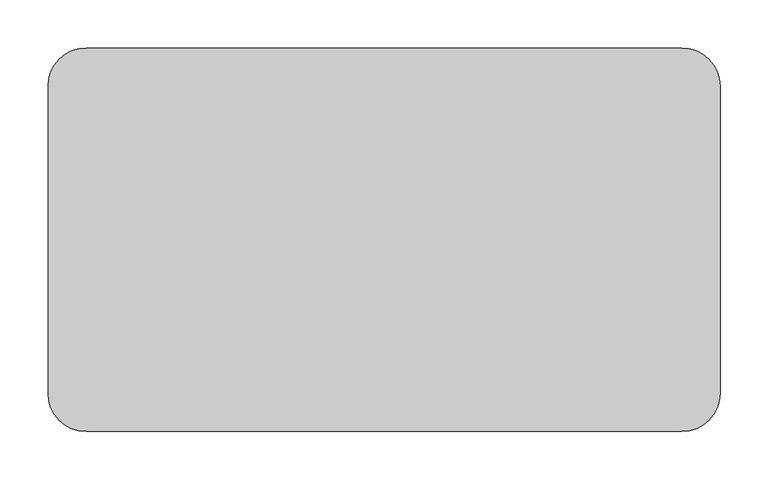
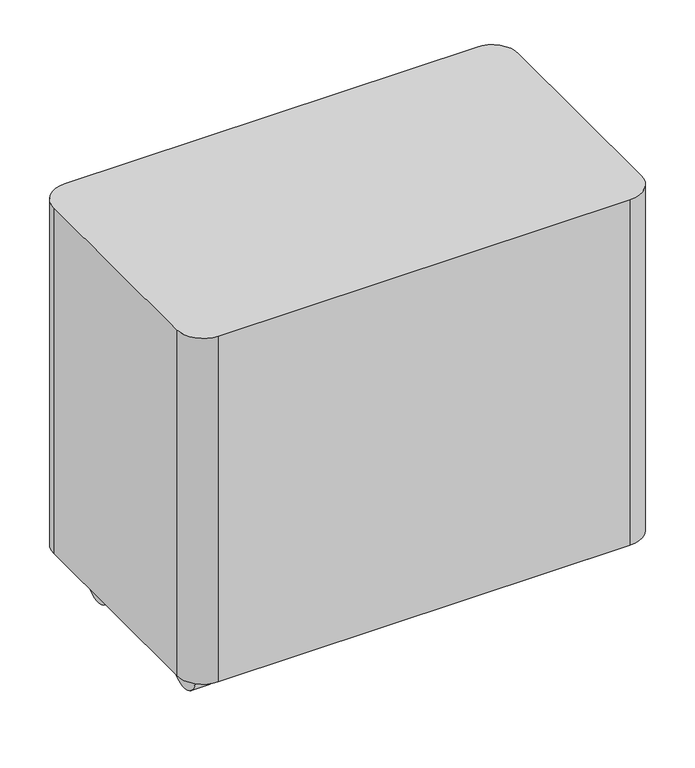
"""IFC4 building model written with IfcOpenShell, lengths in millimetres: furniture geometry, Rollcontainer : Rollcontainer."""

from ifc_helpers import new_model, si_unit, point, frame, frame_2d, origin, place, context, project, spatial, polyline, circle_curve, trimmed, segment, composite_curve, outline, extrude, source, transform, mapped, element, save


def furniture_eb3f1c25(model_context):
    return source(origin(), model_context, "Body", "SweptSolid", [
        extrude(outline(composite_curve([segment(trimmed(circle_curve(frame_2d((112.1492538, 30.0)), 30.0), [point((82.1492538, 30.0))], [point((142.1492538, 30.0))], False, "CARTESIAN"), True, "CONTINUOUS"), segment(trimmed(circle_curve(frame_2d((112.1492538, 30.0)), 30.0), [point((142.1492538, 30.0))], [point((82.1492538, 30.0))], False, "CARTESIAN"), True, "CONTINUOUS")], self_intersect=False)), frame((287.1068607, 0.0, 0.0), z_axis=(1.0, 0.0, 0.0), x_axis=(0.0, 1.0, 0.0)), (0.0, 0.0, 1.0), 28.6309547),
        extrude(outline(composite_curve([segment(trimmed(circle_curve(frame_2d((-112.1492538, 30.0)), 30.0), [point((-82.1492538, 30.0))], [point((-142.1492538, 30.0))], False, "CARTESIAN"), True, "CONTINUOUS"), segment(trimmed(circle_curve(frame_2d((-112.1492538, 30.0)), 30.0), [point((-142.1492538, 30.0))], [point((-82.1492538, 30.0))], False, "CARTESIAN"), True, "CONTINUOUS")], self_intersect=False)), frame((287.1068607, 0.0, 0.0), z_axis=(1.0, 0.0, 0.0), x_axis=(0.0, 1.0, 0.0)), (0.0, 0.0, 1.0), 28.6309547),
        extrude(outline(composite_curve([segment(trimmed(circle_curve(frame_2d((112.1492538, 30.0)), 30.0), [point((82.1492538, 30.0))], [point((142.1492538, 30.0))], False, "CARTESIAN"), True, "CONTINUOUS"), segment(trimmed(circle_curve(frame_2d((112.1492538, 30.0)), 30.0), [point((142.1492538, 30.0))], [point((82.1492538, 30.0))], False, "CARTESIAN"), True, "CONTINUOUS")], self_intersect=False)), frame((-310.9696008, 0.0, 0.0), z_axis=(1.0, 0.0, 0.0), x_axis=(0.0, 1.0, 0.0)), (0.0, 0.0, 1.0), 27.2468029),
        extrude(outline(composite_curve([segment(trimmed(circle_curve(frame_2d((-112.1492538, 30.0)), 30.0), [point((-82.1492538, 30.0))], [point((-142.1492538, 30.0))], False, "CARTESIAN"), True, "CONTINUOUS"), segment(trimmed(circle_curve(frame_2d((-112.1492538, 30.0)), 30.0), [point((-142.1492538, 30.0))], [point((-82.1492538, 30.0))], False, "CARTESIAN"), True, "CONTINUOUS")], self_intersect=False)), frame((-310.9696008, 0.0, 0.0), z_axis=(1.0, 0.0, 0.0), x_axis=(0.0, 1.0, 0.0)), (0.0, 0.0, 1.0), 27.2468029),
        extrude(outline(composite_curve([segment(trimmed(circle_curve(frame_2d((310.0, 160.0)), 40.0), [point((310.0, 200.0))], [point((350.0, 160.0))], False, "CARTESIAN"), True, "CONTINUOUS"), segment(polyline([(350.0, 160.0), (350.0, -160.0)]), True, "CONTINUOUS"), segment(trimmed(circle_curve(frame_2d((310.0, -160.0)), 40.0), [point((350.0, -160.0))], [point((310.0, -200.0))], False, "CARTESIAN"), True, "CONTINUOUS"), segment(polyline([(310.0, -200.0), (-310.0, -200.0)]), True, "CONTINUOUS"), segment(trimmed(circle_curve(frame_2d((-310.0, -160.0)), 40.0), [point((-310.0, -200.0))], [point((-350.0, -160.0))], False, "CARTESIAN"), True, "CONTINUOUS"), segment(polyline([(-350.0, -160.0), (-350.0, 160.0)]), True, "CONTINUOUS"), segment(trimmed(circle_curve(frame_2d((-310.0, 160.0)), 40.0), [point((-350.0, 160.0))], [point((-310.0, 200.0))], False, "CARTESIAN"), True, "CONTINUOUS"), segment(polyline([(-310.0, 200.0), (310.0, 200.0)]), True, "CONTINUOUS")], self_intersect=False)), frame((0.0, 0.0, 62.0), z_axis=(0.0, 0.0, 1.0), x_axis=(1.0, 0.0, 0.0)), (0.0, 0.0, 1.0), 550.0),
    ])


if __name__ == "__main__":
    model = new_model("IFC4")
    model_context = context("Model", 3, world=origin())
    ifc_project = project(units=[si_unit("LENGTHUNIT", "METRE", prefix="MILLI")], contexts=[model_context])
    site = spatial("IfcSite", under=ifc_project)
    building = spatial("IfcBuilding", under=site)
    placement = place(None, origin())
    furniture_shape = furniture_eb3f1c25(model_context)
    element("IfcFurniture", 1, ObjectType="Rollcontainer : Rollcontainer", at=placement, inside=building, context=model_context, shape_type="MappedRepresentation", body=[
        mapped(furniture_shape, transform((0.0, 0.0, 0.0), x_axis=(1.0, 0.0, 0.0), y_axis=(0.0, 1.0, 0.0), z_axis=(0.0, 0.0, 1.0))),
    ])
    save(model, "model.ifc")
